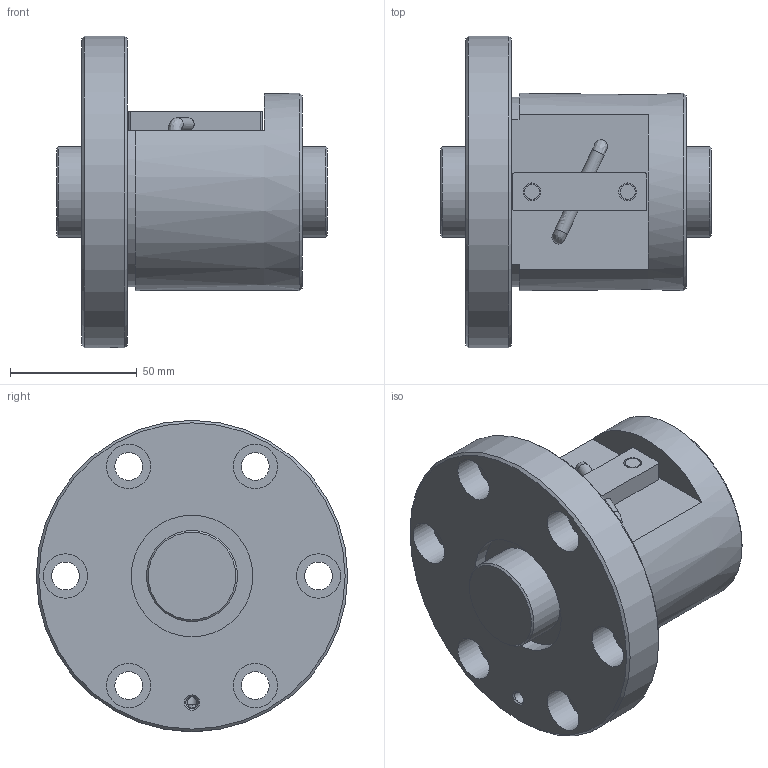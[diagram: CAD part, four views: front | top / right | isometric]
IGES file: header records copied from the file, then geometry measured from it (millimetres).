
Start section: Data from Parasolid IGES Translator 26.0.171, Copyright(c) 2006 Siemens PLM Software. All Rights Reserved.
Global section: file name: BNF3612V-2.5RRG1+107LC0_000_rev.igs; native system: By Siemens PLM Incorporated; preprocessor: XPlus GENERIC/IGES 26.0.171; author: Noname; organization: Noname; date: 20240806.083923; units: millimetre
Bounding box: 107 x 123 x 123 mm (x, y, z)
Surface area: 76827.1 mm2 (no closed solid volume)
Topology: 0 solids, 0 shells, 71 faces, 328 edges, 284 vertices
Faces by surface type: revolution 44, extrusion 27
